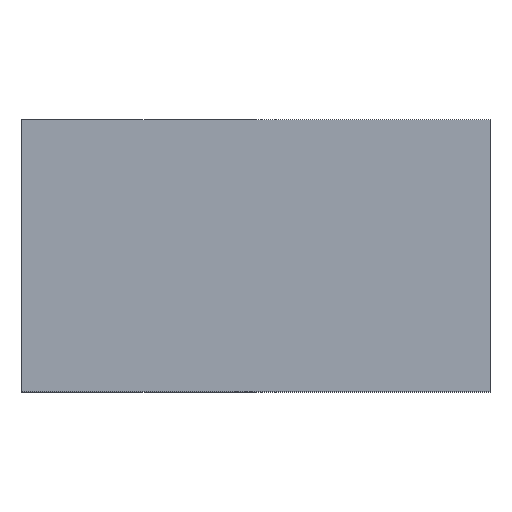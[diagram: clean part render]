
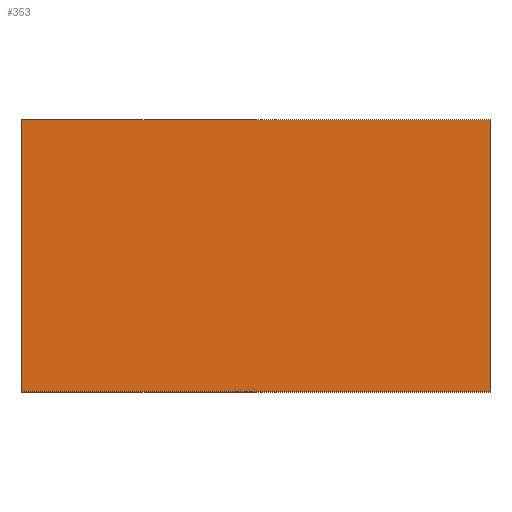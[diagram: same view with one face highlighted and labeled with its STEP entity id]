
A CAD part, top view. The second image highlights one B-rep face of the part: STEP entity #353.
In plain terms, the highlighted planar face has unit normal (0, 0, 1).
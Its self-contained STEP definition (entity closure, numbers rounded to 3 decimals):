
#39 = VERTEX_POINT('',#40);
#40 = CARTESIAN_POINT('',(-7.45,3.4,7.));
#47 = PLANE('',#48);
#48 = AXIS2_PLACEMENT_3D('',#49,#50,#51);
#49 = CARTESIAN_POINT('',(-7.45,3.4,0.));
#50 = DIRECTION('',(0.,1.,0.));
#51 = DIRECTION('',(1.,0.,0.));
#59 = PLANE('',#60);
#60 = AXIS2_PLACEMENT_3D('',#61,#62,#63);
#61 = CARTESIAN_POINT('',(-7.45,-2.35,0.));
#62 = DIRECTION('',(-1.,0.,0.));
#63 = DIRECTION('',(0.,1.,0.));
#71 = EDGE_CURVE('',#39,#72,#74,.T.);
#72 = VERTEX_POINT('',#73);
#73 = CARTESIAN_POINT('',(2.45,3.4,7.));
#74 = SURFACE_CURVE('',#75,(#79,#86),.PCURVE_S1.);
#75 = LINE('',#76,#77);
#76 = CARTESIAN_POINT('',(-7.45,3.4,7.));
#77 = VECTOR('',#78,1.);
#78 = DIRECTION('',(1.,0.,0.));
#79 = PCURVE('',#47,#80);
#80 = DEFINITIONAL_REPRESENTATION('',(#81),#85);
#81 = LINE('',#82,#83);
#82 = CARTESIAN_POINT('',(0.,-7.));
#83 = VECTOR('',#84,1.);
#84 = DIRECTION('',(1.,0.));
#85 = ( GEOMETRIC_REPRESENTATION_CONTEXT(2) 
PARAMETRIC_REPRESENTATION_CONTEXT() REPRESENTATION_CONTEXT('2D SPACE',''
  ) );
#86 = PCURVE('',#87,#92);
#87 = PLANE('',#88);
#88 = AXIS2_PLACEMENT_3D('',#89,#90,#91);
#89 = CARTESIAN_POINT('',(-2.5,0.525,7.));
#90 = DIRECTION('',(-0.,-0.,-1.));
#91 = DIRECTION('',(-1.,0.,0.));
#92 = DEFINITIONAL_REPRESENTATION('',(#93),#97);
#93 = LINE('',#94,#95);
#94 = CARTESIAN_POINT('',(4.95,2.875));
#95 = VECTOR('',#96,1.);
#96 = DIRECTION('',(-1.,0.));
#97 = ( GEOMETRIC_REPRESENTATION_CONTEXT(2) 
PARAMETRIC_REPRESENTATION_CONTEXT() REPRESENTATION_CONTEXT('2D SPACE',''
  ) );
#115 = PLANE('',#116);
#116 = AXIS2_PLACEMENT_3D('',#117,#118,#119);
#117 = CARTESIAN_POINT('',(2.45,3.4,0.));
#118 = DIRECTION('',(1.,0.,-0.));
#119 = DIRECTION('',(0.,-1.,0.));
#157 = EDGE_CURVE('',#72,#158,#160,.T.);
#158 = VERTEX_POINT('',#159);
#159 = CARTESIAN_POINT('',(2.45,-2.35,7.));
#160 = SURFACE_CURVE('',#161,(#165,#172),.PCURVE_S1.);
#161 = LINE('',#162,#163);
#162 = CARTESIAN_POINT('',(2.45,3.4,7.));
#163 = VECTOR('',#164,1.);
#164 = DIRECTION('',(0.,-1.,0.));
#165 = PCURVE('',#115,#166);
#166 = DEFINITIONAL_REPRESENTATION('',(#167),#171);
#167 = LINE('',#168,#169);
#168 = CARTESIAN_POINT('',(0.,-7.));
#169 = VECTOR('',#170,1.);
#170 = DIRECTION('',(1.,0.));
#171 = ( GEOMETRIC_REPRESENTATION_CONTEXT(2) 
PARAMETRIC_REPRESENTATION_CONTEXT() REPRESENTATION_CONTEXT('2D SPACE',''
  ) );
#172 = PCURVE('',#87,#173);
#173 = DEFINITIONAL_REPRESENTATION('',(#174),#178);
#174 = LINE('',#175,#176);
#175 = CARTESIAN_POINT('',(-4.95,2.875));
#176 = VECTOR('',#177,1.);
#177 = DIRECTION('',(0.,-1.));
#178 = ( GEOMETRIC_REPRESENTATION_CONTEXT(2) 
PARAMETRIC_REPRESENTATION_CONTEXT() REPRESENTATION_CONTEXT('2D SPACE',''
  ) );
#196 = PLANE('',#197);
#197 = AXIS2_PLACEMENT_3D('',#198,#199,#200);
#198 = CARTESIAN_POINT('',(2.45,-2.35,0.));
#199 = DIRECTION('',(0.,-1.,0.));
#200 = DIRECTION('',(-1.,0.,0.));
#233 = EDGE_CURVE('',#158,#234,#236,.T.);
#234 = VERTEX_POINT('',#235);
#235 = CARTESIAN_POINT('',(-7.45,-2.35,7.));
#236 = SURFACE_CURVE('',#237,(#241,#248),.PCURVE_S1.);
#237 = LINE('',#238,#239);
#238 = CARTESIAN_POINT('',(2.45,-2.35,7.));
#239 = VECTOR('',#240,1.);
#240 = DIRECTION('',(-1.,0.,0.));
#241 = PCURVE('',#196,#242);
#242 = DEFINITIONAL_REPRESENTATION('',(#243),#247);
#243 = LINE('',#244,#245);
#244 = CARTESIAN_POINT('',(0.,-7.));
#245 = VECTOR('',#246,1.);
#246 = DIRECTION('',(1.,0.));
#247 = ( GEOMETRIC_REPRESENTATION_CONTEXT(2) 
PARAMETRIC_REPRESENTATION_CONTEXT() REPRESENTATION_CONTEXT('2D SPACE',''
  ) );
#248 = PCURVE('',#87,#249);
#249 = DEFINITIONAL_REPRESENTATION('',(#250),#254);
#250 = LINE('',#251,#252);
#251 = CARTESIAN_POINT('',(-4.95,-2.875));
#252 = VECTOR('',#253,1.);
#253 = DIRECTION('',(1.,0.));
#254 = ( GEOMETRIC_REPRESENTATION_CONTEXT(2) 
PARAMETRIC_REPRESENTATION_CONTEXT() REPRESENTATION_CONTEXT('2D SPACE',''
  ) );
#304 = EDGE_CURVE('',#234,#39,#305,.T.);
#305 = SURFACE_CURVE('',#306,(#310,#317),.PCURVE_S1.);
#306 = LINE('',#307,#308);
#307 = CARTESIAN_POINT('',(-7.45,-2.35,7.));
#308 = VECTOR('',#309,1.);
#309 = DIRECTION('',(0.,1.,0.));
#310 = PCURVE('',#59,#311);
#311 = DEFINITIONAL_REPRESENTATION('',(#312),#316);
#312 = LINE('',#313,#314);
#313 = CARTESIAN_POINT('',(0.,-7.));
#314 = VECTOR('',#315,1.);
#315 = DIRECTION('',(1.,0.));
#316 = ( GEOMETRIC_REPRESENTATION_CONTEXT(2) 
PARAMETRIC_REPRESENTATION_CONTEXT() REPRESENTATION_CONTEXT('2D SPACE',''
  ) );
#317 = PCURVE('',#87,#318);
#318 = DEFINITIONAL_REPRESENTATION('',(#319),#323);
#319 = LINE('',#320,#321);
#320 = CARTESIAN_POINT('',(4.95,-2.875));
#321 = VECTOR('',#322,1.);
#322 = DIRECTION('',(0.,1.));
#323 = ( GEOMETRIC_REPRESENTATION_CONTEXT(2) 
PARAMETRIC_REPRESENTATION_CONTEXT() REPRESENTATION_CONTEXT('2D SPACE',''
  ) );
#353 = ADVANCED_FACE('',(#354),#87,.F.);
#354 = FACE_BOUND('',#355,.F.);
#355 = EDGE_LOOP('',(#356,#357,#358,#359));
#356 = ORIENTED_EDGE('',*,*,#71,.T.);
#357 = ORIENTED_EDGE('',*,*,#157,.T.);
#358 = ORIENTED_EDGE('',*,*,#233,.T.);
#359 = ORIENTED_EDGE('',*,*,#304,.T.);
